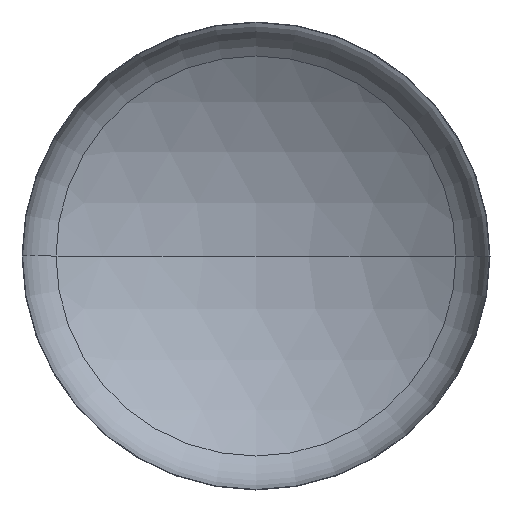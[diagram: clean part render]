
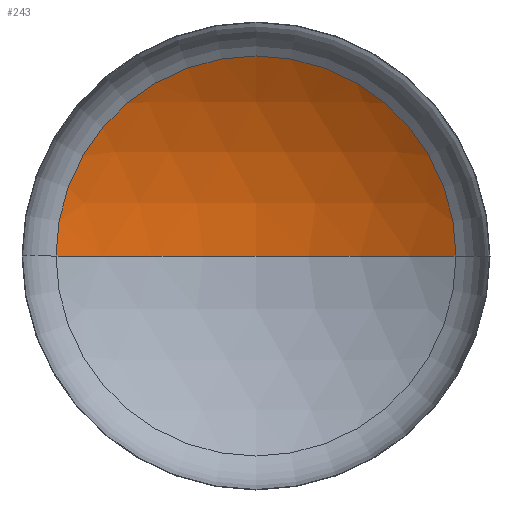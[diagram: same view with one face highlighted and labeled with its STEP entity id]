
A CAD part, front view. The second image highlights one B-rep face of the part: STEP entity #243.
In plain terms, the highlighted spherical face has radius 3200 mm.
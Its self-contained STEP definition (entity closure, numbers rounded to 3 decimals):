
#25 = AXIS2_PLACEMENT_3D ( 'NONE', #59, #78, #400 ) ;
#35 = AXIS2_PLACEMENT_3D ( 'NONE', #200, #55, #48 ) ;
#38 = AXIS2_PLACEMENT_3D ( 'NONE', #270, #269, #290 ) ;
#40 = AXIS2_PLACEMENT_3D ( 'NONE', #254, #253, #251 ) ;
#41 = EDGE_LOOP ( 'NONE', ( #303, #140, #97 ) ) ;
#48 = DIRECTION ( 'NONE',  ( 1., 0., 0. ) ) ;
#55 = DIRECTION ( 'NONE',  ( 0., 0., 1. ) ) ;
#59 = CARTESIAN_POINT ( 'NONE',  ( 0., -2165.192, 0. ) ) ;
#73 = VERTEX_POINT ( 'NONE', #347 ) ;
#78 = DIRECTION ( 'NONE',  ( 0., 0., -1. ) ) ;
#97 = ORIENTED_EDGE ( 'NONE', *, *, #196, .T. ) ;
#106 = VERTEX_POINT ( 'NONE', #382 ) ;
#111 = FACE_OUTER_BOUND ( 'NONE', #41, .T. ) ;
#135 = VERTEX_POINT ( 'NONE', #235 ) ;
#140 = ORIENTED_EDGE ( 'NONE', *, *, #211, .T. ) ;
#196 = EDGE_CURVE ( 'NONE', #135, #106, #271, .T. ) ;
#200 = CARTESIAN_POINT ( 'NONE',  ( 0., -2165.192, 0. ) ) ;
#211 = EDGE_CURVE ( 'NONE', #73, #135, #220, .T. ) ;
#216 = EDGE_CURVE ( 'NONE', #73, #106, #274, .T. ) ;
#220 = CIRCLE ( 'NONE', #40, 3200. ) ;
#235 = CARTESIAN_POINT ( 'NONE',  ( 1709.555, 539.881, 0. ) ) ;
#243 = ADVANCED_FACE ( 'NONE', ( #111 ), #267, .F. ) ;
#251 = DIRECTION ( 'NONE',  ( -1., 0., 0. ) ) ;
#253 = DIRECTION ( 'NONE',  ( 0., 0., -1. ) ) ;
#254 = CARTESIAN_POINT ( 'NONE',  ( 0., -2165.192, 0. ) ) ;
#267 = SPHERICAL_SURFACE ( 'NONE', #25, 3200. ) ;
#269 = DIRECTION ( 'NONE',  ( 0., -1., 0. ) ) ;
#270 = CARTESIAN_POINT ( 'NONE',  ( 0., 539.881, 0. ) ) ;
#271 = CIRCLE ( 'NONE', #38, 1709.555 ) ;
#274 = CIRCLE ( 'NONE', #35, 3200. ) ;
#290 = DIRECTION ( 'NONE',  ( 1., 0., 0. ) ) ;
#303 = ORIENTED_EDGE ( 'NONE', *, *, #216, .F. ) ;
#347 = CARTESIAN_POINT ( 'NONE',  ( 0., 1034.808, 0. ) ) ;
#382 = CARTESIAN_POINT ( 'NONE',  ( -1709.555, 539.881, 0. ) ) ;
#400 = DIRECTION ( 'NONE',  ( -1., 0., 0. ) ) ;
